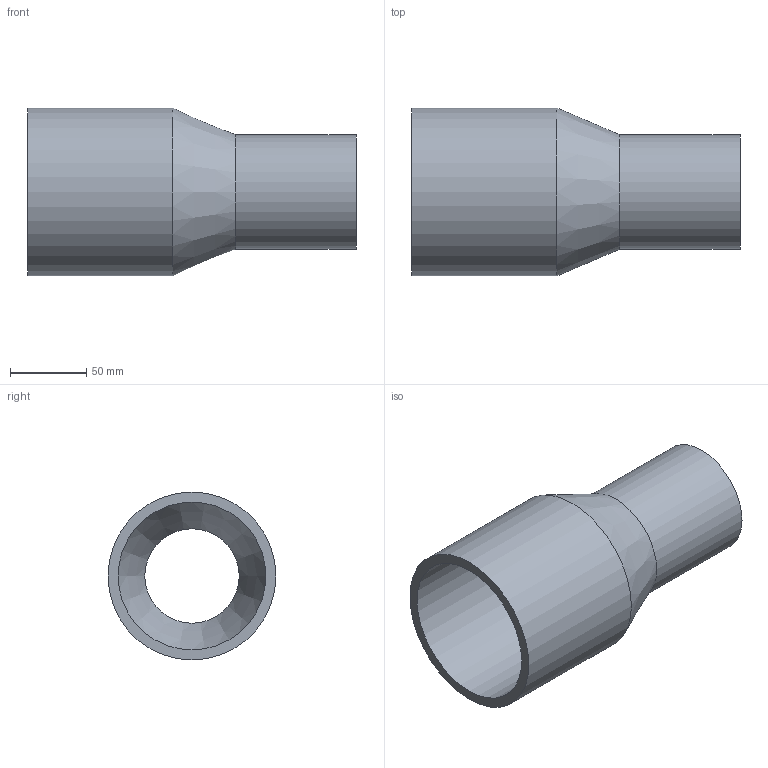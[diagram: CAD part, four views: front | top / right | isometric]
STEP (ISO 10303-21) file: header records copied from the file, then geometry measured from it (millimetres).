
FILE_DESCRIPTION(('Beschreibung'),'1');
FILE_NAME('V:/Ziel/25.91.03.063_SDR_17_PE100_110_075.STP', '2014-09-15T06:14:55',('Author'), ('Organization'), 'KCM Version 1.1.794.0', 'Kubotek KeyCreator', 'Authorization');
FILE_SCHEMA(('CONFIG_CONTROL_DESIGN'));
Length unit declared in the file: millimetre
Bounding box: 215 x 110 x 110 mm (x, y, z)
Volume: 394625.1 mm3; surface area: 123145.5 mm2
Topology: 1 solids, 1 shells, 8 faces, 22 edges, 24 vertices
Faces by surface type: cylinder 4, cone 2, plane 2
Full cylindrical faces by diameter (mm): 61.8 x1, 75 x1, 96.8 x1, 110 x1
Entity records: 321 total; most frequent: DIRECTION 48, CARTESIAN_POINT 39, ORIENTED_EDGE 28, AXIS2_PLACEMENT_3D 17, EDGE_CURVE 14, VECTOR 14, LINE 14, EDGE_LOOP 10
